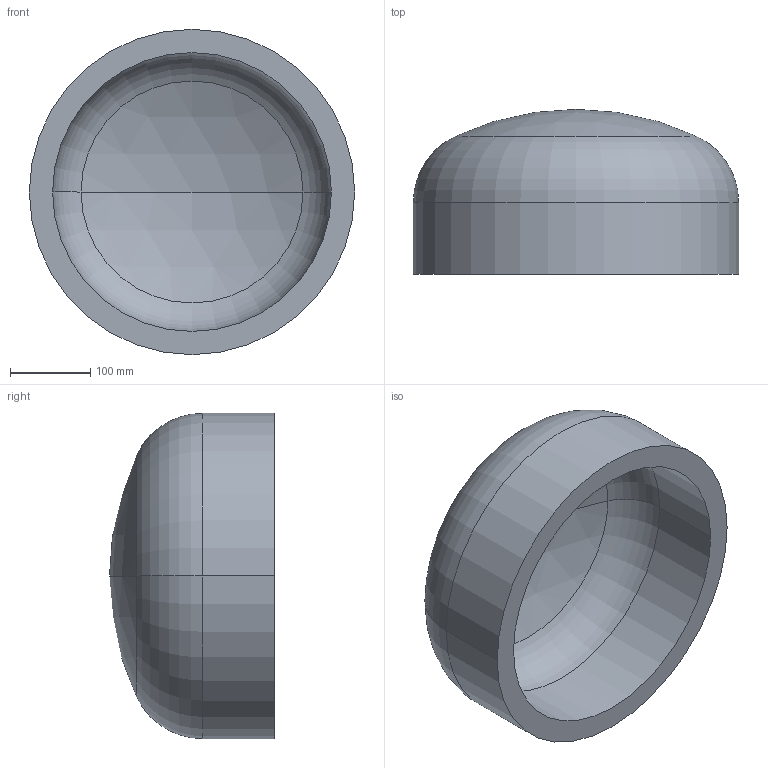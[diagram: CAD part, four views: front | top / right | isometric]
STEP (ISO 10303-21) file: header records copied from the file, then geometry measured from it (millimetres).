
FILE_DESCRIPTION (( 'STEP AP203' ), '1' );
FILE_NAME ('DIN 28013 Korbbogenform_-_Boden DIN 28013 - 406,4 x 90 - I - s=29.step', '2016-07-01T07:50:06', ( '' ), ( '' ), 'SwSTEP 2.0', 'SolidWorks 2013', '' );
FILE_SCHEMA (( 'CONFIG_CONTROL_DESIGN' ));
Length unit declared in the file: millimetre
Products named in the file (1): DIN 28013 Korbbogenform_-_Boden DIN 28013 - 406,4 x 90 - I - s=29
Bounding box: 406.4 x 206.13 x 406.4 mm (x, y, z)
Volume: 7846188.5 mm3; surface area: 577261.2 mm2
Topology: 1 solids, 1 shells, 13 faces, 24 edges, 14 vertices
Faces by surface type: torus 4, cylinder 4, sphere 4, plane 1
Entity records: 407 total; most frequent: DIRECTION 72, CARTESIAN_POINT 52, ORIENTED_EDGE 48, AXIS2_PLACEMENT_3D 34, EDGE_CURVE 24, CIRCLE 20, VERTEX_POINT 14, EDGE_LOOP 14
